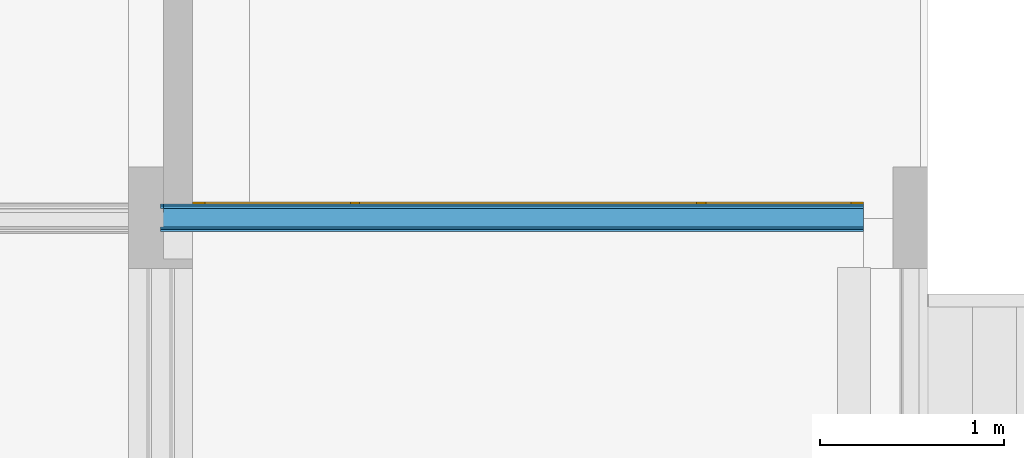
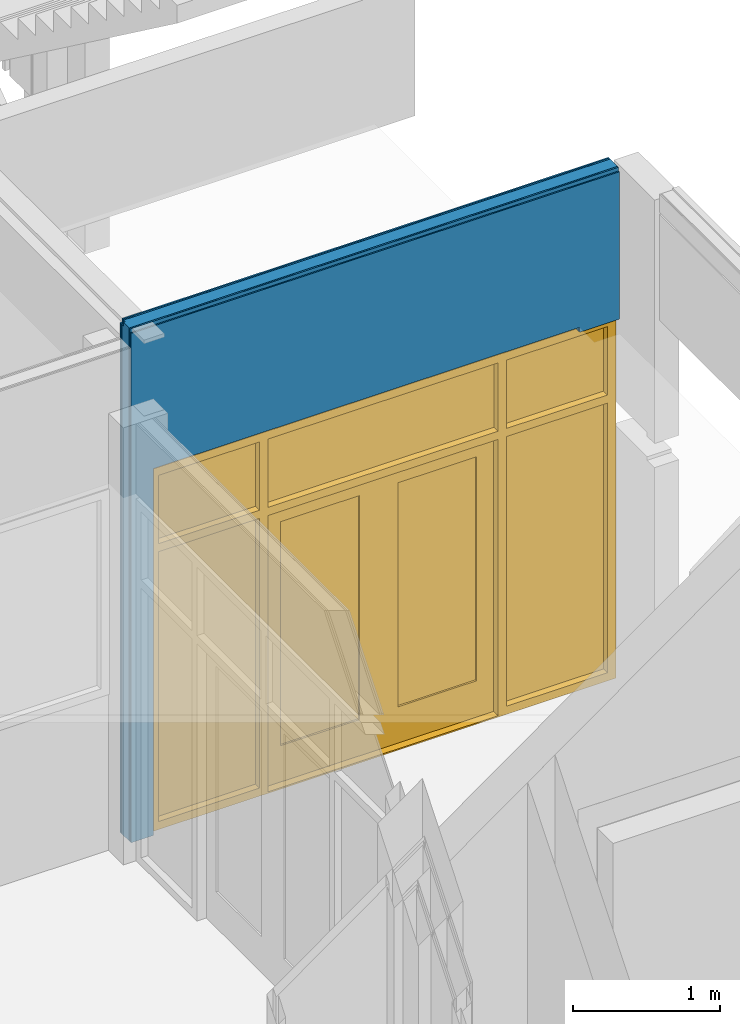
# One storey, part 79 of 94: 5 building element parts, 1 door, 1 opening, 1 element without a shape of its own.
"""IFC2X3 building model written with IfcOpenShell, lengths in millimetres."""

from ifc_helpers import new_model, entity, si_unit, converted_unit, derived_unit, money_unit, direction, frame, origin_with_axes, place, context, subcontext, project, spatial, open_shell, faceted_brep, surface_model, material, type_object, element, fill, aggregate, save


model = new_model("IFC2X3")

# Units and contexts
model_context = context("Model", 3, precision=0.01, world=origin_with_axes(), true_north=direction((0.0, 1.0)))
body_context = subcontext(model_context, "Body", "Model", "MODEL_VIEW")
ifc_project = project(units=[si_unit("LENGTHUNIT", "METRE", prefix="MILLI"), si_unit("AREAUNIT", "SQUARE_METRE"), si_unit("VOLUMEUNIT", "CUBIC_METRE"), converted_unit("PLANEANGLEUNIT", "DEGREE", entity("IfcPlaneAngleMeasure", 0.0174532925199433), si_unit("PLANEANGLEUNIT", "RADIAN"), dimensions=[0, 0, 0, 0, 0, 0, 0]), money_unit("EUR"), converted_unit("TIMEUNIT", "Year", entity("IfcTimeMeasure", 31557600.0), si_unit("TIMEUNIT", "SECOND"), dimensions=[0, 0, 1, 0, 0, 0, 0]), si_unit("MASSUNIT", "GRAM", prefix="KILO"), si_unit("THERMODYNAMICTEMPERATUREUNIT", "DEGREE_CELSIUS"), si_unit("LUMINOUSINTENSITYUNIT", "LUMEN"), si_unit("ENERGYUNIT", "JOULE", prefix="MEGA"), derived_unit("THERMALCONDUCTANCEUNIT", [(si_unit("POWERUNIT", "WATT"), 1), (si_unit("LENGTHUNIT", "METRE"), -1), (si_unit("THERMODYNAMICTEMPERATUREUNIT", "KELVIN"), -1)]), derived_unit("SPECIFICHEATCAPACITYUNIT", [(si_unit("ENERGYUNIT", "JOULE"), 1), (si_unit("MASSUNIT", "GRAM", prefix="KILO"), -1), (si_unit("THERMODYNAMICTEMPERATUREUNIT", "KELVIN"), -1)]), derived_unit("MASSDENSITYUNIT", [(si_unit("MASSUNIT", "GRAM", prefix="KILO"), 1), (si_unit("VOLUMEUNIT", "CUBIC_METRE"), -1)])], contexts=[model_context])

# Site, building, storey
site_placement = place(None, origin_with_axes())
site = spatial("IfcSite", under=ifc_project, at=site_placement, Name="<site naam>", CompositionType="ELEMENT")
building_placement = place(site_placement, origin_with_axes())
building = spatial("IfcBuilding", under=site, at=building_placement, Name="<Naam gebouw>", CompositionType="ELEMENT")
storey_placement = place(building_placement, frame((0.0, 0.0, 4250.0), z_axis=(0.0, 0.0, 1.0), x_axis=(1.0, 0.0, 0.0)))
storey = spatial("IfcBuildingStorey", under=building, at=storey_placement, Name="01 1e verdieping", CompositionType="ELEMENT", Elevation=4250.0)

# Door
door_style = type_object("IfcDoorStyle", Name="D2 bl zl2 27", ConstructionType="NOTDEFINED", OperationType="USERDEFINED", ParameterTakesPrecedence=False, Sizeable=False)
wall_placement = place(storey_placement, frame((48000.00000000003, 12000.00000000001, 0.0), z_axis=(0.0, 0.0, 1.0), x_axis=(1.0, 0.0, 0.0)))
opening_placement = place(wall_placement, frame((2000.000020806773, 0.0, 0.0), z_axis=(0.0, 0.0, 1.0), x_axis=(1.0, 0.0, 0.0)))
door_placement = place(opening_placement, frame((-1824.999978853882, 0.0, 0.0), z_axis=(0.0, 0.0, 1.0), x_axis=(1.0, 0.0, 0.0)))
door = element("IfcDoor", 1, at=door_placement, inside=storey, type_object=door_style, Name="22_BI-D-04_305", ObjectType="DOOR", OverallHeight=3000.0, OverallWidth=3650.0, context=body_context, shape_type="SurfaceModel", body=[
    faceted_brep([(2741.999978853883, 45.00000000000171, 12.00000000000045), (2741.999978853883, 85.00000000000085, 12.00000000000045), (907.99997885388, 85.00000000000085, 11.99999999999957), (907.99997885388, 45.00000000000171, 11.99999999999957), (924.999978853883, 45.00000000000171, 11.99999999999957), (924.999978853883, -28.99999999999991, 11.99999999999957), (2724.99997885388, -28.99999999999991, 12.00000000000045), (2724.99997885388, 45.00000000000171, 12.00000000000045), (2741.999978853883, 45.00000000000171, 0.0), (2741.999978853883, 85.00000000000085, 0.0), (907.99997885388, 85.00000000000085, 0.0), (907.99997885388, 45.00000000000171, 0.0), (924.999978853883, 45.00000000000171, 0.0), (924.999978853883, -28.99999999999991, 0.0), (2724.99997885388, -28.99999999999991, 0.0), (2724.99997885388, 45.00000000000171, 0.0)], [[[0, 1, 2, 3, 4, 5, 6, 7]], [[8, 9, 1, 0]], [[9, 10, 2, 1]], [[11, 3, 2, 10]], [[3, 11, 12, 4]], [[5, 4, 12, 13]], [[6, 5, 13, 14]], [[14, 15, 7, 6]], [[7, 15, 8, 0]], [[15, 14, 13, 12, 11, 10, 9, 8]]]),
    faceted_brep([(3649.999957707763, 85.00000000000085, 0.0), (3649.999957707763, -28.99999999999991, 0.0), (3582.999957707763, -28.99999999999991, 0.0), (3582.999957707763, 85.00000000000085, 0.0), (3649.999957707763, 85.00000000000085, 2933.0), (3649.999957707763, -28.99999999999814, 2933.0), (3582.999957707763, -28.99999999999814, 2933.0), (3582.999957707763, -28.99999999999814, 2367.0), (3582.999957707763, -28.99999999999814, 2300.0), (3582.999957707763, -28.99999999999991, 67.00000000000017), (3582.999957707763, 85.00000000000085, 67.00000000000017), (3582.999957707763, 85.00000000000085, 2300.0), (3582.999957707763, 85.00000000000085, 2367.0), (3582.999957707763, 85.00000000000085, 2933.0)], [[[0, 1, 2, 3]], [[4, 5, 1, 0]], [[1, 5, 6, 7, 8, 9, 2]], [[3, 2, 9, 10]], [[0, 3, 10, 11, 12, 13, 4]], [[13, 6, 5, 4]], [[12, 7, 6, 13]], [[11, 8, 7, 12]], [[10, 9, 8, 11]]]),
    faceted_brep([(2724.99997885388, 30.00000000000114, 2317.0), (2724.99997885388, 30.00000000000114, 2300.0), (2724.99997885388, -28.99999999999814, 2300.0), (2724.99997885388, -28.99999999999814, 2367.0), (2724.99997885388, 85.00000000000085, 2367.0), (2724.99997885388, 85.00000000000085, 2317.0), (2741.999978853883, 30.00000000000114, 2317.0), (2741.999978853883, 30.00000000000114, 0.0), (2724.99997885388, 30.00000000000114, 0.0), (2724.99997885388, -28.99999999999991, 0.0), (2791.99997885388, -28.99999999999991, 0.0), (2791.99997885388, -28.99999999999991, 67.00000000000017), (2791.99997885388, -28.99999999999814, 2300.0), (2791.99997885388, -28.99999999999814, 2367.0), (2791.99997885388, -28.99999999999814, 2933.0), (2724.99997885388, -28.99999999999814, 2933.0), (2724.99997885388, 85.00000000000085, 2933.0), (2741.999978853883, 85.00000000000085, 2317.0), (2791.99997885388, 85.00000000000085, 2933.0), (2791.99997885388, 85.00000000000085, 2367.0), (2791.99997885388, 85.00000000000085, 2300.0), (2791.99997885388, 85.00000000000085, 67.00000000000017), (2791.99997885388, 85.00000000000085, 0.0), (2741.999978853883, 85.00000000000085, 0.0)], [[[0, 1, 2, 3, 4, 5]], [[0, 6, 7, 8, 1]], [[8, 9, 2, 1]], [[2, 9, 10, 11, 12, 13, 14, 15, 3]], [[16, 4, 3, 15]], [[17, 5, 4, 16, 18, 19, 20, 21, 22, 23]], [[5, 17, 6, 0]], [[23, 7, 6, 17]], [[7, 23, 22, 10, 9, 8]], [[22, 21, 11, 10]], [[21, 20, 12, 11]], [[20, 19, 13, 12]], [[19, 18, 14, 13]], [[18, 16, 15, 14]]]),
    faceted_brep([(3582.999957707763, 85.00000000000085, 67.00000000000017), (3582.999957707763, -28.99999999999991, 67.00000000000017), (3582.999957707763, -28.99999999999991, 0.0), (3582.999957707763, 85.00000000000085, 0.0), (2791.99997885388, 85.00000000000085, 67.00000000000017), (2791.99997885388, -28.99999999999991, 67.00000000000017), (2791.99997885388, -28.99999999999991, 0.0), (2791.99997885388, 85.00000000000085, 0.0)], [[[0, 1, 2, 3]], [[4, 5, 1, 0]], [[1, 5, 6, 2]], [[3, 2, 6, 7]], [[0, 3, 7, 4]], [[7, 6, 5, 4]]]),
    faceted_brep([(0.0, 85.00000000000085, 0.0), (0.0, -28.99999999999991, 0.0), (0.0, -28.99999999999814, 2933.0), (0.0, 85.00000000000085, 2933.0), (67.00000000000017, 85.00000000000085, 0.0), (67.00000000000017, -28.99999999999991, 0.0), (67.00000000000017, -28.99999999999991, 67.00000000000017), (67.00000000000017, -28.99999999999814, 2300.0), (67.00000000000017, -28.99999999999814, 2367.0), (67.00000000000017, -28.99999999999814, 2933.0), (67.00000000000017, 85.00000000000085, 2933.0), (67.00000000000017, 85.00000000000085, 2367.0), (67.00000000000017, 85.00000000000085, 2300.0), (67.00000000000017, 85.00000000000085, 67.00000000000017)], [[[0, 1, 2, 3]], [[4, 5, 1, 0]], [[1, 5, 6, 7, 8, 9, 2]], [[3, 2, 9, 10]], [[0, 3, 10, 11, 12, 13, 4]], [[13, 6, 5, 4]], [[12, 7, 6, 13]], [[11, 8, 7, 12]], [[10, 9, 8, 11]]]),
    faceted_brep([(907.99997885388, 85.00000000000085, 2317.0), (907.99997885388, 85.00000000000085, 0.0), (857.9999788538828, 85.00000000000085, 0.0), (857.9999788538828, 85.00000000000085, 67.00000000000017), (857.9999788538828, 85.00000000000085, 2300.0), (857.9999788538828, 85.00000000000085, 2367.0), (857.9999788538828, 85.00000000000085, 2933.0), (924.999978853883, 85.00000000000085, 2933.0), (924.999978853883, 85.00000000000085, 2367.0), (924.999978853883, 85.00000000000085, 2317.0), (907.99997885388, 30.00000000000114, 2317.0), (907.99997885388, 30.00000000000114, 0.0), (924.999978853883, 30.00000000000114, 0.0), (924.999978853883, -28.99999999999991, 0.0), (857.9999788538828, -28.99999999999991, 0.0), (857.9999788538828, -28.99999999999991, 67.00000000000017), (857.9999788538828, -28.99999999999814, 2300.0), (857.9999788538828, -28.99999999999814, 2367.0), (857.9999788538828, -28.99999999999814, 2933.0), (924.999978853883, -28.99999999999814, 2933.0), (924.999978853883, -28.99999999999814, 2367.0), (924.999978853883, 30.00000000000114, 2317.0), (924.999978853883, -28.99999999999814, 2300.0), (924.999978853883, 30.00000000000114, 2300.0)], [[[0, 1, 2, 3, 4, 5, 6, 7, 8, 9]], [[0, 10, 11, 1]], [[11, 12, 13, 14, 2, 1]], [[3, 2, 14, 15]], [[4, 3, 15, 16]], [[5, 4, 16, 17]], [[6, 5, 17, 18]], [[7, 6, 18, 19]], [[8, 7, 19, 20]], [[21, 9, 8, 20, 22, 23]], [[9, 21, 10, 0]], [[11, 10, 21, 23, 12]], [[23, 22, 13, 12]], [[15, 14, 13, 22, 20, 19, 18, 17, 16]]]),
    faceted_brep([(857.9999788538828, 85.00000000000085, 67.00000000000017), (857.9999788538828, -28.99999999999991, 67.00000000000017), (857.9999788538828, -28.99999999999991, 0.0), (857.9999788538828, 85.00000000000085, 0.0), (67.00000000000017, 85.00000000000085, 67.00000000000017), (67.00000000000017, -28.99999999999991, 67.00000000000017), (67.00000000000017, -28.99999999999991, 0.0), (67.00000000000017, 85.00000000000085, 0.0)], [[[0, 1, 2, 3]], [[4, 5, 1, 0]], [[1, 5, 6, 2]], [[3, 2, 6, 7]], [[0, 3, 7, 4]], [[7, 6, 5, 4]]]),
    faceted_brep([(3649.999957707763, 85.00000000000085, 3000.0), (3649.999957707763, -28.99999999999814, 3000.0), (3649.999957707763, -28.99999999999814, 2933.0), (3649.999957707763, 85.00000000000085, 2933.0), (0.0, 85.00000000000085, 3000.0), (0.0, -28.99999999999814, 3000.0), (0.0, -28.99999999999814, 2933.0), (67.00000000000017, -28.99999999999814, 2933.0), (857.9999788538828, -28.99999999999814, 2933.0), (924.999978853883, -28.99999999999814, 2933.0), (2724.99997885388, -28.99999999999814, 2933.0), (2791.99997885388, -28.99999999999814, 2933.0), (3582.999957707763, -28.99999999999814, 2933.0), (3582.999957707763, 85.00000000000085, 2933.0), (2791.99997885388, 85.00000000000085, 2933.0), (2724.99997885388, 85.00000000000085, 2933.0), (924.999978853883, 85.00000000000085, 2933.0), (857.9999788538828, 85.00000000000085, 2933.0), (67.00000000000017, 85.00000000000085, 2933.0), (0.0, 85.00000000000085, 2933.0)], [[[0, 1, 2, 3]], [[4, 5, 1, 0]], [[1, 5, 6, 7, 8, 9, 10, 11, 12, 2]], [[3, 2, 12, 13]], [[0, 3, 13, 14, 15, 16, 17, 18, 19, 4]], [[19, 6, 5, 4]], [[18, 7, 6, 19]], [[17, 8, 7, 18]], [[16, 9, 8, 17]], [[15, 10, 9, 16]], [[14, 11, 10, 15]], [[13, 12, 11, 14]]]),
    faceted_brep([(3582.999957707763, 85.00000000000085, 2300.0), (3582.999957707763, -28.99999999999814, 2300.0), (2791.99997885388, -28.99999999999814, 2300.0), (2791.99997885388, 85.00000000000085, 2300.0), (3582.999957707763, 85.00000000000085, 2367.0), (3582.999957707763, -28.99999999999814, 2367.0), (2791.99997885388, -28.99999999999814, 2367.0), (2791.99997885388, 85.00000000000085, 2367.0)], [[[0, 1, 2, 3]], [[4, 5, 1, 0]], [[1, 5, 6, 2]], [[3, 2, 6, 7]], [[0, 3, 7, 4]], [[7, 6, 5, 4]]]),
    faceted_brep([(67.00000000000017, 85.00000000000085, 2367.0), (67.00000000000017, -28.99999999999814, 2367.0), (857.9999788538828, -28.99999999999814, 2367.0), (857.9999788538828, 85.00000000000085, 2367.0), (67.00000000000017, 85.00000000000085, 2300.0), (67.00000000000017, -28.99999999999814, 2300.0), (857.9999788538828, -28.99999999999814, 2300.0), (857.9999788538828, 85.00000000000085, 2300.0)], [[[0, 1, 2, 3]], [[4, 5, 1, 0]], [[1, 5, 6, 2]], [[3, 2, 6, 7]], [[0, 3, 7, 4]], [[7, 6, 5, 4]]]),
    faceted_brep([(924.999978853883, 30.00000000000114, 2317.0), (924.999978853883, 30.00000000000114, 2300.0), (924.999978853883, -28.99999999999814, 2300.0), (924.999978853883, -28.99999999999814, 2367.0), (924.999978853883, 85.00000000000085, 2367.0), (924.999978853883, 85.00000000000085, 2317.0), (2724.99997885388, 30.00000000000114, 2317.0), (2724.99997885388, 30.00000000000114, 2300.0), (2724.99997885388, -28.99999999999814, 2300.0), (2724.99997885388, -28.99999999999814, 2367.0), (2724.99997885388, 85.00000000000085, 2367.0), (2724.99997885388, 85.00000000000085, 2317.0)], [[[0, 1, 2, 3, 4, 5]], [[0, 6, 7, 1]], [[7, 8, 2, 1]], [[8, 9, 3, 2]], [[10, 4, 3, 9]], [[5, 4, 10, 11]], [[5, 11, 6, 0]], [[6, 11, 10, 9, 8, 7]]]),
    faceted_brep([(907.99997885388, 70.00000000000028, 312.0000000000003), (1057.999978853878, 70.00000000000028, 312.0000000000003), (1057.999978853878, 30.00000000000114, 312.0000000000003), (907.99997885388, 30.00000000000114, 312.0000000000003), (907.99997885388, 70.00000000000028, 2167.0), (1057.999978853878, 70.00000000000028, 2167.0), (1057.999978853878, 30.00000000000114, 2167.0), (907.99997885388, 30.00000000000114, 2167.0)], [[[0, 1, 2, 3]], [[0, 4, 5, 1]], [[1, 5, 6, 2]], [[3, 2, 6, 7]], [[4, 0, 3, 7]], [[5, 4, 7, 6]]]),
    faceted_brep([(1824.999978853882, 70.00000000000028, 312.0000000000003), (1824.999978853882, 70.00000000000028, 2167.0), (1824.999978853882, 30.00000000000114, 2167.0), (1824.999978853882, 30.00000000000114, 312.0000000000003), (1674.999978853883, 70.00000000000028, 312.0000000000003), (1674.999978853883, 70.00000000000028, 2167.0), (1674.999978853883, 30.00000000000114, 2167.0), (1674.999978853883, 30.00000000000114, 312.0000000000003)], [[[0, 1, 2, 3]], [[0, 4, 5, 1]], [[1, 5, 6, 2]], [[3, 2, 6, 7]], [[4, 0, 3, 7]], [[5, 4, 7, 6]]]),
    faceted_brep([(907.99997885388, 70.00000000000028, 11.99999999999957), (1824.999978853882, 70.00000000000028, 11.99999999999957), (1824.999978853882, 30.00000000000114, 11.99999999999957), (907.99997885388, 30.00000000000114, 11.99999999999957), (907.99997885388, 70.00000000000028, 312.0000000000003), (1057.999978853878, 70.00000000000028, 312.0000000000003), (1674.999978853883, 70.00000000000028, 312.0000000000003), (1824.999978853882, 70.00000000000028, 312.0000000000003), (1824.999978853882, 30.00000000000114, 312.0000000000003), (1674.999978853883, 30.00000000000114, 312.0000000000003), (1057.999978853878, 30.00000000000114, 312.0000000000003), (907.99997885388, 30.00000000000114, 312.0000000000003)], [[[0, 1, 2, 3]], [[0, 4, 5, 6, 7, 1]], [[1, 7, 8, 2]], [[3, 2, 8, 9, 10, 11]], [[4, 0, 3, 11]], [[5, 4, 11, 10]], [[6, 5, 10, 9]], [[7, 6, 9, 8]]]),
    faceted_brep([(907.99997885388, 70.00000000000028, 2317.0), (907.99997885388, 70.00000000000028, 2167.0), (907.99997885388, 30.00000000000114, 2167.0), (907.99997885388, 30.00000000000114, 2317.0), (1824.999978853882, 70.00000000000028, 2317.0), (1824.999978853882, 70.00000000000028, 2167.0), (1674.999978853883, 70.00000000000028, 2167.0), (1057.999978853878, 70.00000000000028, 2167.0), (1057.999978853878, 30.00000000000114, 2167.0), (1674.999978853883, 30.00000000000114, 2167.0), (1824.999978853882, 30.00000000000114, 2167.0), (1824.999978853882, 30.00000000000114, 2317.0)], [[[0, 1, 2, 3]], [[0, 4, 5, 6, 7, 1]], [[1, 7, 8, 2]], [[3, 2, 8, 9, 10, 11]], [[4, 0, 3, 11]], [[5, 4, 11, 10]], [[6, 5, 10, 9]], [[7, 6, 9, 8]]]),
    surface_model("IfcShellBasedSurfaceModel", [(1057.999978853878, 56.00000000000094, 312.0000000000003), (1057.999978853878, 56.00000000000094, 2167.0), (1674.999978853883, 56.00000000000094, 2167.0), (1674.999978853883, 56.00000000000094, 312.0000000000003)], [open_shell([[[0, 1, 2, 3]]])]),
    surface_model("IfcShellBasedSurfaceModel", [(1057.999978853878, 44.00000000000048, 312.0000000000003), (1674.999978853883, 44.00000000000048, 312.0000000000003), (1674.999978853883, 44.00000000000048, 2167.0), (1057.999978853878, 44.00000000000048, 2167.0)], [open_shell([[[0, 1, 2, 3]]])]),
    faceted_brep([(2741.999978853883, 70.00000000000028, 312.0000000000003), (2741.999978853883, 30.00000000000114, 312.0000000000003), (2591.999978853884, 30.00000000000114, 312.0000000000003), (2591.999978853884, 70.00000000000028, 312.0000000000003), (2741.999978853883, 70.00000000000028, 2167.0), (2741.999978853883, 30.00000000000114, 2167.0), (2591.999978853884, 30.00000000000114, 2167.0), (2591.999978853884, 70.00000000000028, 2167.0)], [[[0, 1, 2, 3]], [[4, 5, 1, 0]], [[1, 5, 6, 2]], [[3, 2, 6, 7]], [[0, 3, 7, 4]], [[7, 6, 5, 4]]]),
    faceted_brep([(1824.999978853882, 70.00000000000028, 312.0000000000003), (1824.999978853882, 30.00000000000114, 312.0000000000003), (1824.999978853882, 30.00000000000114, 2167.0), (1824.999978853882, 70.00000000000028, 2167.0), (1974.99997885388, 70.00000000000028, 312.0000000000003), (1974.99997885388, 30.00000000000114, 312.0000000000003), (1974.99997885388, 30.00000000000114, 2167.0), (1974.99997885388, 70.00000000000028, 2167.0)], [[[0, 1, 2, 3]], [[4, 5, 1, 0]], [[1, 5, 6, 2]], [[3, 2, 6, 7]], [[0, 3, 7, 4]], [[7, 6, 5, 4]]]),
    faceted_brep([(2741.999978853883, 70.00000000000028, 11.99999999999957), (2741.999978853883, 30.00000000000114, 11.99999999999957), (1824.999978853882, 30.00000000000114, 11.99999999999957), (1824.999978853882, 70.00000000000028, 11.99999999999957), (2741.999978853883, 70.00000000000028, 312.0000000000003), (2741.999978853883, 30.00000000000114, 312.0000000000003), (2591.999978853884, 30.00000000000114, 312.0000000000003), (1974.99997885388, 30.00000000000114, 312.0000000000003), (1824.999978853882, 30.00000000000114, 312.0000000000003), (1824.999978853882, 70.00000000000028, 312.0000000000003), (1974.99997885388, 70.00000000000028, 312.0000000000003), (2591.999978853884, 70.00000000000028, 312.0000000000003)], [[[0, 1, 2, 3]], [[4, 5, 1, 0]], [[1, 5, 6, 7, 8, 2]], [[3, 2, 8, 9]], [[0, 3, 9, 10, 11, 4]], [[11, 6, 5, 4]], [[10, 7, 6, 11]], [[9, 8, 7, 10]]]),
    faceted_brep([(2741.999978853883, 70.00000000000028, 2317.0), (2741.999978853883, 30.00000000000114, 2317.0), (2741.999978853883, 30.00000000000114, 2167.0), (2741.999978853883, 70.00000000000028, 2167.0), (1824.999978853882, 70.00000000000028, 2317.0), (1824.999978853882, 30.00000000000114, 2317.0), (1824.999978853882, 30.00000000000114, 2167.0), (1974.99997885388, 30.00000000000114, 2167.0), (2591.999978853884, 30.00000000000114, 2167.0), (2591.999978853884, 70.00000000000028, 2167.0), (1974.99997885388, 70.00000000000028, 2167.0), (1824.999978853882, 70.00000000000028, 2167.0)], [[[0, 1, 2, 3]], [[4, 5, 1, 0]], [[1, 5, 6, 7, 8, 2]], [[3, 2, 8, 9]], [[0, 3, 9, 10, 11, 4]], [[11, 6, 5, 4]], [[10, 7, 6, 11]], [[9, 8, 7, 10]]]),
    surface_model("IfcShellBasedSurfaceModel", [(2591.999978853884, 56.00000000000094, 312.0000000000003), (1974.99997885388, 56.00000000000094, 312.0000000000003), (1974.99997885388, 56.00000000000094, 2167.0), (2591.999978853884, 56.00000000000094, 2167.0)], [open_shell([[[0, 1, 2, 3]]])]),
    surface_model("IfcShellBasedSurfaceModel", [(2591.999978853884, 44.00000000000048, 312.0000000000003), (2591.999978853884, 44.00000000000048, 2167.0), (1974.99997885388, 44.00000000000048, 2167.0), (1974.99997885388, 44.00000000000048, 312.0000000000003)], [open_shell([[[0, 1, 2, 3]]])]),
    surface_model("IfcShellBasedSurfaceModel", [(3582.999957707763, 25.00000000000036, 2367.0), (3582.999957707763, 25.00000000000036, 2933.0), (2791.99997885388, 25.00000000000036, 2933.0), (2791.99997885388, 25.00000000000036, 2367.0)], [open_shell([[[0, 1, 2, 3]]])]),
    surface_model("IfcShellBasedSurfaceModel", [(3582.999957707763, 37.00000000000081, 2367.0), (2791.99997885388, 37.00000000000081, 2367.0), (2791.99997885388, 37.00000000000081, 2933.0), (3582.999957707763, 37.00000000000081, 2933.0)], [open_shell([[[0, 1, 2, 3]]])]),
    surface_model("IfcShellBasedSurfaceModel", [(2724.99997885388, 25.00000000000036, 2367.0), (2724.99997885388, 25.00000000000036, 2933.0), (924.999978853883, 25.00000000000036, 2933.0), (924.999978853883, 25.00000000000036, 2367.0)], [open_shell([[[0, 1, 2, 3]]])]),
    surface_model("IfcShellBasedSurfaceModel", [(2724.99997885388, 37.00000000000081, 2367.0), (924.999978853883, 37.00000000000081, 2367.0), (924.999978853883, 37.00000000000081, 2933.0), (2724.99997885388, 37.00000000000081, 2933.0)], [open_shell([[[0, 1, 2, 3]]])]),
    surface_model("IfcShellBasedSurfaceModel", [(857.9999788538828, 25.00000000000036, 2367.0), (857.9999788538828, 25.00000000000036, 2933.0), (67.00000000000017, 25.00000000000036, 2933.0), (67.00000000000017, 25.00000000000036, 2367.0)], [open_shell([[[0, 1, 2, 3]]])]),
    surface_model("IfcShellBasedSurfaceModel", [(857.9999788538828, 37.00000000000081, 2367.0), (67.00000000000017, 37.00000000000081, 2367.0), (67.00000000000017, 37.00000000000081, 2933.0), (857.9999788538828, 37.00000000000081, 2933.0)], [open_shell([[[0, 1, 2, 3]]])]),
    surface_model("IfcShellBasedSurfaceModel", [(3582.999957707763, 25.00000000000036, 67.00000000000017), (3582.999957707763, 25.00000000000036, 2300.000000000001), (2791.99997885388, 25.00000000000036, 2300.000000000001), (2791.99997885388, 25.00000000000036, 67.00000000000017)], [open_shell([[[0, 1, 2, 3]]])]),
    surface_model("IfcShellBasedSurfaceModel", [(3582.999957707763, 37.00000000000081, 67.00000000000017), (2791.99997885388, 37.00000000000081, 67.00000000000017), (2791.99997885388, 37.00000000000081, 2300.000000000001), (3582.999957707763, 37.00000000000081, 2300.000000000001)], [open_shell([[[0, 1, 2, 3]]])]),
    surface_model("IfcShellBasedSurfaceModel", [(857.9999788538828, 25.00000000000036, 67.00000000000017), (857.9999788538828, 25.00000000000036, 2300.000000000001), (67.00000000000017, 25.00000000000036, 2300.000000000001), (67.00000000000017, 25.00000000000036, 67.00000000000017)], [open_shell([[[0, 1, 2, 3]]])]),
    surface_model("IfcShellBasedSurfaceModel", [(857.9999788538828, 37.00000000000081, 67.00000000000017), (67.00000000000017, 37.00000000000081, 67.00000000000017), (67.00000000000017, 37.00000000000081, 2300.000000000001), (857.9999788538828, 37.00000000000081, 2300.000000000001)], [open_shell([[[0, 1, 2, 3]]])]),
])

# Wall, opening
wall_type = type_object("IfcWallType", Name="MS-01 GF 150 ECO DGS/2.100.2.A 150", PredefinedType="NOTDEFINED")
wall = element("IfcWall", 2, at=wall_placement, inside=storey, type_object=wall_type, Name="22_Binnenwand_MS-01")
opening = element("IfcOpeningElement", 3, at=opening_placement, cuts=wall, Name="22_BI-D-04_305", context=body_context, shape_type="Brep", body=[
    faceted_brep([(-1824.999978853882, -75.99999999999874, 3000.0), (-1824.999978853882, -75.99999999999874, 0.0), (1824.999978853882, -75.99999999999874, 0.0), (1824.999978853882, -75.99999999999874, 3000.0), (-1824.999978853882, 75.99999999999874, 3000.0), (-1824.999978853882, 75.99999999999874, 0.0), (1824.999978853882, 75.99999999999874, 0.0), (1824.999978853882, 75.99999999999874, 3000.0)], [[[0, 1, 2, 3]], [[4, 5, 1, 0]], [[5, 6, 2, 1]], [[6, 7, 3, 2]], [[7, 4, 0, 3]], [[6, 5, 4, 7]]]),
])

fill(opening, door)

# Building element part
ifc_material_1 = material(Name="gipsplaat")
building_element_part_1_placement = place(wall_placement, origin_with_axes())
building_element_part_1 = element("IfcBuildingElementPart", 4, at=building_element_part_1_placement, material=ifc_material_1, Name="gipsplaat", context=body_context, shape_type="Brep", body=[
    faceted_brep([(0.0, 75.00000000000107, 4220.000000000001), (15.07784374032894, 75.00000000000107, 4220.000000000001), (15.07784374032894, 75.00000000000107, 4250.0), (3825.000000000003, 75.00000000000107, 4250.0), (3825.000000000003, 75.00000000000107, 3.000000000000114), (485.1073389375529, 75.00000000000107, 3.000000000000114), (485.1073389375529, 74.99999999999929, 0.0), (0.0, 74.99999999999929, 0.0), (174.9999999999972, 75.00000000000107, 3000.0), (3514.470515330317, 75.00000000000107, 3000.0), (3514.470515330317, 75.00000000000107, 3040.0), (174.9999999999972, 75.00000000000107, 3040.0), (0.0, 62.5, 4220.000000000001), (15.07784374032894, 62.5, 4220.000000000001), (15.07784374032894, 62.5, 4250.0), (3825.000000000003, 62.5, 4250.0), (3825.000000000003, 62.5, 3.000000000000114), (485.1073389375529, 62.5, 3.000000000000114), (485.1073389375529, 62.5, 0.0), (0.0, 62.5, 0.0), (174.9999999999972, 62.5, 3000.0), (3514.470515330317, 62.5, 3000.0), (3514.470515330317, 62.5, 3040.0), (174.9999999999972, 62.5, 3040.0)], [[[0, 1, 2, 3, 4, 5, 6, 7], [8, 9, 10, 11]], [[1, 0, 12, 13]], [[14, 2, 1, 13]], [[2, 14, 15, 3]], [[16, 4, 3, 15]], [[5, 4, 16, 17]], [[6, 5, 17, 18]], [[6, 18, 19, 7]], [[12, 0, 7, 19]], [[9, 8, 20, 21]], [[10, 9, 21, 22]], [[11, 10, 22, 23]], [[8, 11, 23, 20]], [[13, 12, 19, 18, 17, 16, 15, 14], [20, 23, 22, 21]]]),
])

building_element_part_2_placement = place(wall_placement, origin_with_axes())
building_element_part_2 = element("IfcBuildingElementPart", 5, at=building_element_part_2_placement, material=ifc_material_1, Name="gipsplaat", context=body_context, shape_type="Brep", body=[
    faceted_brep([(0.0, 62.5, 4220.000000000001), (15.07784374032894, 62.5, 4220.000000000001), (15.07784374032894, 62.5, 4250.0), (3825.000000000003, 62.5, 4250.0), (3825.000000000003, 62.5, 3.000000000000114), (485.1073389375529, 62.5, 3.000000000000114), (485.1073389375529, 62.5, 0.0), (0.0, 62.5, 0.0), (174.9999999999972, 62.5, 3000.0), (3514.470515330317, 62.5, 3000.0), (3514.470515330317, 62.5, 3040.0), (174.9999999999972, 62.5, 3040.0), (0.0, 50.00000000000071, 4220.000000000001), (15.07784374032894, 50.00000000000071, 4220.000000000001), (15.07784374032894, 50.00000000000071, 4250.0), (3825.000000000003, 50.00000000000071, 4250.0), (3825.000000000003, 50.00000000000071, 3.000000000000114), (485.1073389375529, 50.00000000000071, 3.000000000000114), (485.1073389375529, 50.00000000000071, 0.0), (0.0, 50.00000000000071, 0.0), (174.9999999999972, 50.00000000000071, 3000.0), (3514.470515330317, 50.00000000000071, 3000.0), (3514.470515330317, 50.00000000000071, 3040.0), (174.9999999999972, 50.00000000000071, 3040.0)], [[[0, 1, 2, 3, 4, 5, 6, 7], [8, 9, 10, 11]], [[1, 0, 12, 13]], [[14, 2, 1, 13]], [[2, 14, 15, 3]], [[16, 4, 3, 15]], [[5, 4, 16, 17]], [[6, 5, 17, 18]], [[6, 18, 19, 7]], [[12, 0, 7, 19]], [[9, 8, 20, 21]], [[10, 9, 21, 22]], [[11, 10, 22, 23]], [[8, 11, 23, 20]], [[13, 12, 19, 18, 17, 16, 15, 14], [20, 23, 22, 21]]]),
])

ifc_material_2 = material(Name="isolatie_steenwol LSW")
building_element_part_3_placement = place(wall_placement, origin_with_axes())
building_element_part_3 = element("IfcBuildingElementPart", 6, at=building_element_part_3_placement, material=ifc_material_2, Name="isolatie_steenwol LSW", context=body_context, shape_type="Brep", body=[
    faceted_brep([(0.0, 50.00000000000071, 4220.000000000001), (15.07784374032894, 50.00000000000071, 4220.000000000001), (15.07784374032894, 50.00000000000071, 4250.0), (3825.000000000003, 50.00000000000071, 4250.0), (3825.000000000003, 50.00000000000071, 3.000000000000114), (485.1073389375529, 50.00000000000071, 3.000000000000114), (485.1073389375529, 50.00000000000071, 0.0), (0.0, 50.00000000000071, 0.0), (174.9999999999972, 50.00000000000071, 3000.0), (3514.470515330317, 50.00000000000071, 3000.0), (3514.470515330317, 50.00000000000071, 3040.0), (174.9999999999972, 50.00000000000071, 3040.0), (0.0, 28.99999999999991, 4220.000000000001), (15.07784374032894, 28.99999999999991, 4220.000000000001), (15.07784374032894, 28.99999999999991, 4250.0), (0.0, 28.99999999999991, 4250.0), (0.0, -49.99999999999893, 4250.0), (3825.000000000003, -49.99999999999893, 4250.0), (3825.000000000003, 0.0, 3.000000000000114), (3825.000000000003, -49.99999999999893, 3.000000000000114), (0.0, -50.00000000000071, 3.000000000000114), (0.0, 0.0, 3.000000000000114), (485.1073389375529, 0.0, 3.000000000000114), (485.1073389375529, 0.0, 0.0), (0.0, 0.0, 0.0), (174.9999999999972, -49.99999999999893, 3000.0), (3514.470515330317, -49.99999999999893, 3000.0), (3514.470515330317, -49.99999999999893, 3040.0), (174.9999999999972, -49.99999999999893, 3040.0)], [[[0, 1, 2, 3, 4, 5, 6, 7], [8, 9, 10, 11]], [[1, 0, 12, 13]], [[14, 2, 1, 13]], [[14, 15, 16, 17, 3, 2]], [[18, 4, 3, 17, 19]], [[5, 4, 18, 19, 20, 21, 22]], [[6, 5, 22, 23]], [[6, 23, 24, 7]], [[12, 0, 7, 24, 21, 20, 16, 15]], [[9, 8, 25, 26]], [[10, 9, 26, 27]], [[11, 10, 27, 28]], [[8, 11, 28, 25]], [[15, 14, 13, 12]], [[20, 19, 17, 16], [25, 28, 27, 26]], [[23, 22, 21, 24]]]),
])

building_element_part_4_placement = place(wall_placement, origin_with_axes())
building_element_part_4 = element("IfcBuildingElementPart", 7, at=building_element_part_4_placement, material=ifc_material_1, Name="gipsplaat", context=body_context, shape_type="Brep", body=[
    faceted_brep([(3825.000000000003, -62.5, 3.000000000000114), (3825.000000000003, -49.99999999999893, 3.000000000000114), (3825.000000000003, -49.99999999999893, 4250.0), (3825.000000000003, -62.5, 4250.0), (0.0, -50.00000000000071, 3.000000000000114), (0.0, -62.5, 3.000000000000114), (0.0, -49.99999999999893, 4250.0), (174.9999999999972, -49.99999999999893, 3000.0), (3514.470515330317, -49.99999999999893, 3000.0), (3514.470515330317, -49.99999999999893, 3040.0), (174.9999999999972, -49.99999999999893, 3040.0), (0.0, -62.5, 4250.0), (174.9999999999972, -62.5, 3000.0), (174.9999999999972, -62.5, 3040.0), (3514.470515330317, -62.5, 3040.0), (3514.470515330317, -62.5, 3000.0)], [[[0, 1, 2, 3]], [[4, 1, 0, 5]], [[1, 4, 6, 2], [7, 8, 9, 10]], [[11, 3, 2, 6]], [[5, 0, 3, 11], [12, 13, 14, 15]], [[4, 5, 11, 6]], [[8, 7, 12, 15]], [[9, 8, 15, 14]], [[10, 9, 14, 13]], [[7, 10, 13, 12]]]),
])

building_element_part_5_placement = place(wall_placement, origin_with_axes())
building_element_part_5 = element("IfcBuildingElementPart", 8, at=building_element_part_5_placement, material=ifc_material_1, Name="gipsplaat", context=body_context, shape_type="Brep", body=[
    faceted_brep([(0.0, -63.62245916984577, 4250.0), (3825.000000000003, -63.62245916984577, 4250.0), (3825.000000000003, -62.5, 4250.0), (0.0, -62.5, 4250.0), (3825.000000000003, -63.62245916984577, 4220.000000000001), (0.0, -63.62245916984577, 4220.000000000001), (3825.000000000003, -74.99999999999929, 4220.000000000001), (3825.000000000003, -74.99999999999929, 3.000000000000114), (3825.000000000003, -62.5, 3.000000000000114), (0.0, -62.5, 3.000000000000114), (174.9999999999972, -62.5, 3000.0), (3514.470515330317, -62.5, 3000.0), (3514.470515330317, -62.5, 3040.0), (174.9999999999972, -62.5, 3040.0), (0.0, -74.99999999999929, 3.000000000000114), (0.0, -74.99999999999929, 4220.000000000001), (174.9999999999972, -74.99999999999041, 3000.0), (174.9999999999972, -74.99999999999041, 3040.0), (3514.470515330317, -74.99999999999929, 3040.0), (3514.470515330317, -74.99999999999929, 3000.0)], [[[0, 1, 2, 3]], [[4, 1, 0, 5]], [[4, 6, 7, 8, 2, 1]], [[8, 9, 3, 2], [10, 11, 12, 13]], [[5, 0, 3, 9, 14, 15]], [[6, 4, 5, 15]], [[6, 15, 14, 7], [16, 17, 18, 19]], [[9, 8, 7, 14]], [[11, 10, 16, 19]], [[12, 11, 19, 18]], [[13, 12, 18, 17]], [[10, 13, 17, 16]]]),
])

aggregate(wall, [building_element_part_1, building_element_part_2, building_element_part_3, building_element_part_4, building_element_part_5])

save(model, "model.ifc")
